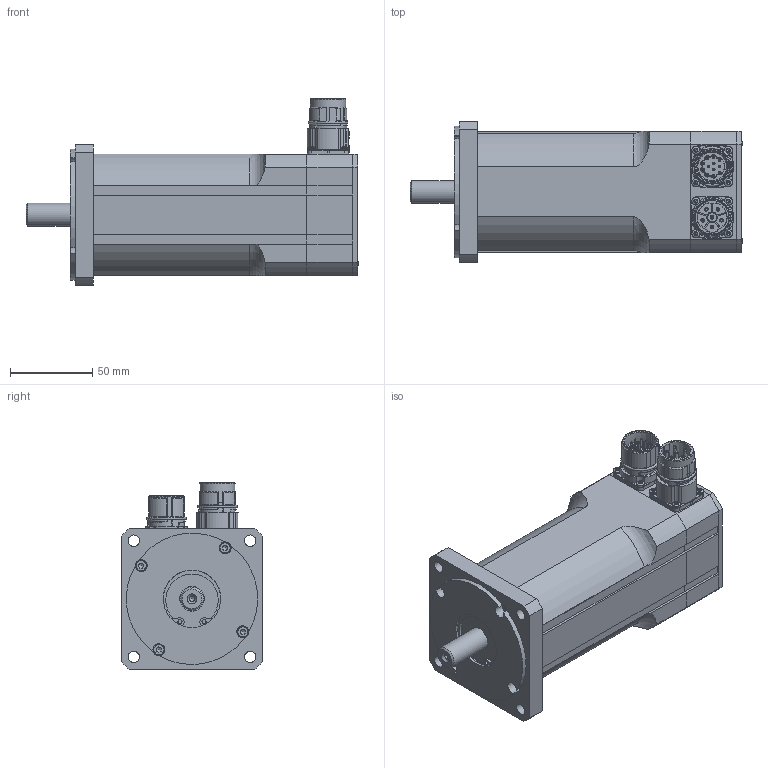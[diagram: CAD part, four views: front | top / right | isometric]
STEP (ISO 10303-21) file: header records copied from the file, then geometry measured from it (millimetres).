
FILE_DESCRIPTION(/* description */ (''),/* implementation_level */ '2;1');
FILE_NAME(/* name */ 'V:\3\N3111 00\3D Z\N3111 00 Z_0480_6P_12P.stp',/* time_stamp */ '2017-03-28T09:24:28+02:00',/* author */ ('simik'),/* organization */ (''),/* preprocessor_version */ 'ST-DEVELOPER v16.5',/* originating_system */ 'Autodesk Inventor 2017',/* authorisation */ '');
FILE_SCHEMA (('AUTOMOTIVE_DESIGN { 1 0 10303 214 3 1 1 }'));
Products named in the file (7): N3111 00 Z; N3111 00 Z_front; N3111 00 Z_rear; BEG_0200_6-polig, Stift; BEG_0200_6-polig, Stift_obal; BEG_0200_6-polig, Stift_vložka; 127344
Assembly tree (6 placements, depth 3):
  N3111 00 Z
    N3111 00 Z_front
    N3111 00 Z_rear
    BEG_0200_6-polig, Stift
      BEG_0200_6-polig, Stift_obal
      BEG_0200_6-polig, Stift_vložka
    127344
Bounding box: 202.2 x 86 x 113.75 mm (x, y, z)
Volume: 352124.3 mm3; surface area: 142390.4 mm2
Topology: 5 solids, 26 shells, 1791 faces, 4311 edges, 2649 vertices
Faces by surface type: cylinder 777, plane 523, bspline 170, cone 145, torus 145, sphere 31
Full cylindrical faces by diameter (mm): 1 x12, 1.18 x12, 2 x6, 2.013 x4, 2.208 x8, 2.4 x8, 2.459 x12, 2.5 x10, 2.675 x4, 2.7 x8, 2.8 x4, 3 x4, 3.242 x5, 3.4 x4, 3.5 x4, 4 x4, 4.3 x4, 5 x8, 5.5 x1, 5.6 x4, 6 x4, 6.5 x4, 7 x8, 7.3 x4, 14 x1, 16 x1, 17.1 x1, 17.4 x1, 17.7 x1, 19 x1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
Entity records: 59374 total; most frequent: CARTESIAN_POINT 17983, DIRECTION 8559, ORIENTED_EDGE 7836, EDGE_CURVE 3844, AXIS2_PLACEMENT_3D 3647, VERTEX_POINT 2509, EDGE_LOOP 2237, CIRCLE 1868
